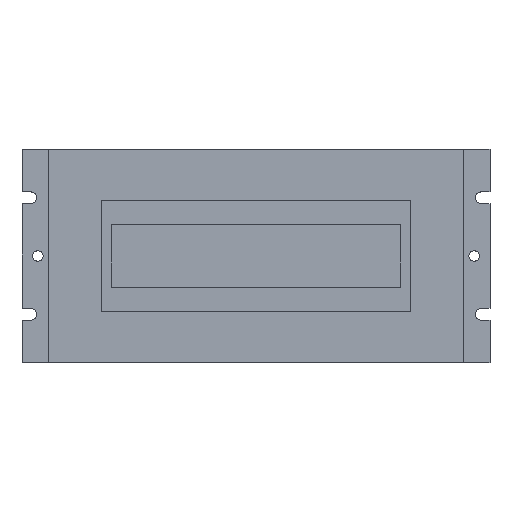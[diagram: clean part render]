
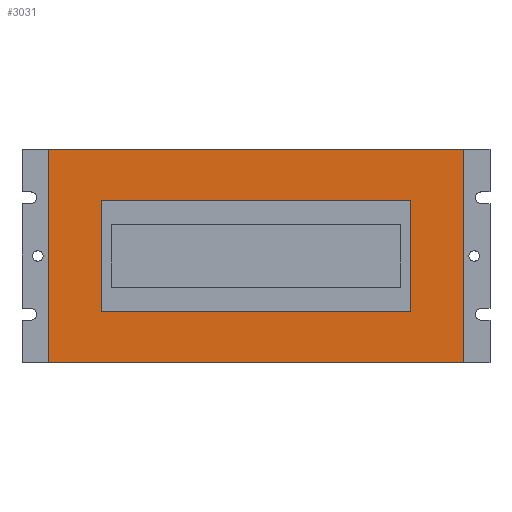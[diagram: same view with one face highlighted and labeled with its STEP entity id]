
A CAD part, top view. The second image highlights one B-rep face of the part: STEP entity #3031.
In plain terms, the highlighted planar face has unit normal (0, 0, 1).
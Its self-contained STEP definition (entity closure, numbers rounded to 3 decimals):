
#174 = CARTESIAN_POINT ( 'NONE',  ( -17.5, 6.3, 7.5 ) ) ;
#273 = DIRECTION ( 'NONE',  ( 0., -1., 0. ) ) ;
#440 = VERTEX_POINT ( 'NONE', #2192 ) ;
#515 = DIRECTION ( 'NONE',  ( 0., -1., 0. ) ) ;
#734 = CARTESIAN_POINT ( 'NONE',  ( 23.5, -12.1, 7.5 ) ) ;
#787 = EDGE_CURVE ( 'NONE', #1480, #3905, #1929, .T. ) ;
#924 = DIRECTION ( 'NONE',  ( -1., 0., 0. ) ) ;
#1065 = DIRECTION ( 'NONE',  ( 0., 0., 1. ) ) ;
#1480 = VERTEX_POINT ( 'NONE', #4051 ) ;
#1506 = VECTOR ( 'NONE', #273, 1000. ) ;
#1593 = VECTOR ( 'NONE', #515, 1000. ) ;
#1602 = ORIENTED_EDGE ( 'NONE', *, *, #8281, .F. ) ;
#1606 = VERTEX_POINT ( 'NONE', #9201 ) ;
#1757 = LINE ( 'NONE', #5465, #1506 ) ;
#1802 = CARTESIAN_POINT ( 'NONE',  ( 23.5, 12.1, 7.5 ) ) ;
#1843 = LINE ( 'NONE', #4197, #1593 ) ;
#1871 = DIRECTION ( 'NONE',  ( 1., 0., 0. ) ) ;
#1929 = LINE ( 'NONE', #8527, #3655 ) ;
#2192 = CARTESIAN_POINT ( 'NONE',  ( -23.5, 12.1, 7.5 ) ) ;
#2658 = VECTOR ( 'NONE', #2935, 1000. ) ;
#2875 = CARTESIAN_POINT ( 'NONE',  ( 23.5, 12.1, 7.5 ) ) ;
#2906 = DIRECTION ( 'NONE',  ( 0., 1., 0. ) ) ;
#2935 = DIRECTION ( 'NONE',  ( 0., 1., 0. ) ) ;
#3031 = ADVANCED_FACE ( 'NONE', ( #5984, #3989 ), #7731, .T. ) ;
#3112 = EDGE_LOOP ( 'NONE', ( #9134, #5139, #6027, #8987 ) ) ;
#3655 = VECTOR ( 'NONE', #6380, 1000. ) ;
#3745 = DIRECTION ( 'NONE',  ( -1., 0., 0. ) ) ;
#3905 = VERTEX_POINT ( 'NONE', #734 ) ;
#3989 = FACE_OUTER_BOUND ( 'NONE', #3112, .T. ) ;
#4051 = CARTESIAN_POINT ( 'NONE',  ( -23.5, -12.1, 7.5 ) ) ;
#4054 = VECTOR ( 'NONE', #924, 1000. ) ;
#4158 = CARTESIAN_POINT ( 'NONE',  ( 17.5, 6.3, 7.5 ) ) ;
#4159 = ORIENTED_EDGE ( 'NONE', *, *, #7851, .F. ) ;
#4195 = VERTEX_POINT ( 'NONE', #1802 ) ;
#4197 = CARTESIAN_POINT ( 'NONE',  ( -17.5, 6.3, 7.5 ) ) ;
#4560 = EDGE_CURVE ( 'NONE', #6339, #7027, #4626, .T. ) ;
#4626 = LINE ( 'NONE', #8125, #2658 ) ;
#5078 = CARTESIAN_POINT ( 'NONE',  ( 17.5, -6.3, 7.5 ) ) ;
#5139 = ORIENTED_EDGE ( 'NONE', *, *, #5993, .T. ) ;
#5329 = LINE ( 'NONE', #6316, #9273 ) ;
#5369 = ORIENTED_EDGE ( 'NONE', *, *, #5752, .F. ) ;
#5465 = CARTESIAN_POINT ( 'NONE',  ( -23.5, 12.1, 7.5 ) ) ;
#5520 = CARTESIAN_POINT ( 'NONE',  ( 0., 0., 7.5 ) ) ;
#5752 = EDGE_CURVE ( 'NONE', #1606, #8786, #1843, .T. ) ;
#5984 = FACE_BOUND ( 'NONE', #8262, .T. ) ;
#5993 = EDGE_CURVE ( 'NONE', #4195, #440, #7656, .T. ) ;
#6003 = CARTESIAN_POINT ( 'NONE',  ( -23.5, 12.1, 7.5 ) ) ;
#6027 = ORIENTED_EDGE ( 'NONE', *, *, #7486, .T. ) ;
#6280 = DIRECTION ( 'NONE',  ( 1., 0., 0. ) ) ;
#6316 = CARTESIAN_POINT ( 'NONE',  ( -17.5, -6.3, 7.5 ) ) ;
#6339 = VERTEX_POINT ( 'NONE', #5078 ) ;
#6380 = DIRECTION ( 'NONE',  ( 1., 0., 0. ) ) ;
#6383 = EDGE_CURVE ( 'NONE', #3905, #4195, #8994, .T. ) ;
#6959 = VECTOR ( 'NONE', #3745, 1000. ) ;
#6962 = CARTESIAN_POINT ( 'NONE',  ( -17.5, -6.3, 7.5 ) ) ;
#7027 = VERTEX_POINT ( 'NONE', #4158 ) ;
#7254 = ORIENTED_EDGE ( 'NONE', *, *, #4560, .F. ) ;
#7486 = EDGE_CURVE ( 'NONE', #440, #1480, #1757, .T. ) ;
#7656 = LINE ( 'NONE', #6003, #6959 ) ;
#7731 = PLANE ( 'NONE',  #9228 ) ;
#7851 = EDGE_CURVE ( 'NONE', #7027, #1606, #8242, .T. ) ;
#8064 = VECTOR ( 'NONE', #2906, 1000. ) ;
#8125 = CARTESIAN_POINT ( 'NONE',  ( 17.5, 6.3, 7.5 ) ) ;
#8242 = LINE ( 'NONE', #174, #4054 ) ;
#8262 = EDGE_LOOP ( 'NONE', ( #7254, #1602, #5369, #4159 ) ) ;
#8281 = EDGE_CURVE ( 'NONE', #8786, #6339, #5329, .T. ) ;
#8527 = CARTESIAN_POINT ( 'NONE',  ( -23.5, -12.1, 7.5 ) ) ;
#8786 = VERTEX_POINT ( 'NONE', #6962 ) ;
#8987 = ORIENTED_EDGE ( 'NONE', *, *, #787, .T. ) ;
#8994 = LINE ( 'NONE', #2875, #8064 ) ;
#9134 = ORIENTED_EDGE ( 'NONE', *, *, #6383, .T. ) ;
#9201 = CARTESIAN_POINT ( 'NONE',  ( -17.5, 6.3, 7.5 ) ) ;
#9228 = AXIS2_PLACEMENT_3D ( 'NONE', #5520, #1065, #6280 ) ;
#9273 = VECTOR ( 'NONE', #1871, 1000. ) ;
